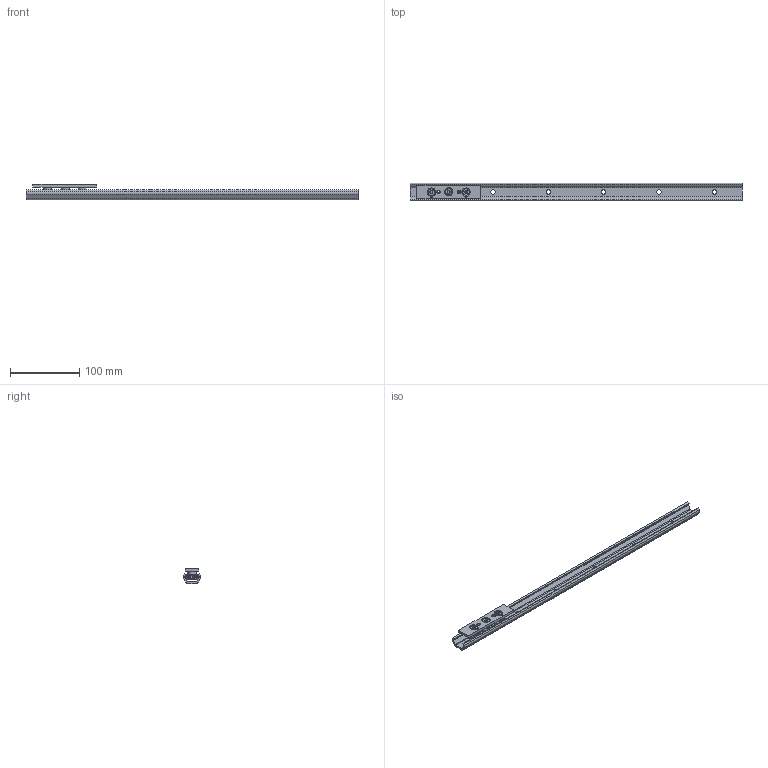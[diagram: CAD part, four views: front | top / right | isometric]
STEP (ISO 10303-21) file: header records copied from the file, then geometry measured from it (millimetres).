
FILE_DESCRIPTION( ( 'STEP AP214' ), '1' );
FILE_NAME( 'p:/temp/worker_4/temp/exporttempdir_3272_266_qBBEl/format_1/TEN26-0480-CEN26-92.stp', '2020-05-08T15:49:00', ( 'License CC BY-ND 4.0' ), ( 'CADENAS' ), ' ', 'PARTsolutions', ' ' );
FILE_SCHEMA( ( 'AUTOMOTIVE_DESIGN { 1 0 10303 214 1 1 1 1 }' ) );
Length unit declared in the file: millimetre
Products named in the file (6): TEN26-0480-CEN26-92; _TEN 26-480; _CEN26-92_1; _RLN26(11.2_M5); _RLA26(11.2_M5); _LAN-26
Assembly tree (8 placements, depth 2):
  TEN26-0480-CEN26-92
    _TEN 26-480
    _CEN26-92_1
    _RLN26(11.2_M5)  x2
    _RLA26(11.2_M5)
    _LAN-26  x3
Bounding box: 480 x 26 x 22 mm (x, y, z)
Volume: 63260.4 mm3; surface area: 51971.4 mm2
Topology: 8 solids, 8 shells, 239 faces, 519 edges, 323 vertices
Faces by surface type: plane 131, cylinder 75, cone 24, bspline 9
Full cylindrical faces by diameter (mm): 2.5 x2, 4.134 x5, 4.5 x3, 5 x6, 6.5 x6, 9.3 x3, 11.2 x6, 11.6 x6, 15.7 x6, 16.7 x6
Entity records: 5510 total; most frequent: CARTESIAN_POINT 815, DIRECTION 748, ORIENTED_EDGE 558, AXIS2_PLACEMENT_3D 310, EDGE_CURVE 279, EDGE_LOOP 256, VERTEX_POINT 209, FACE_OUTER_BOUND 196
